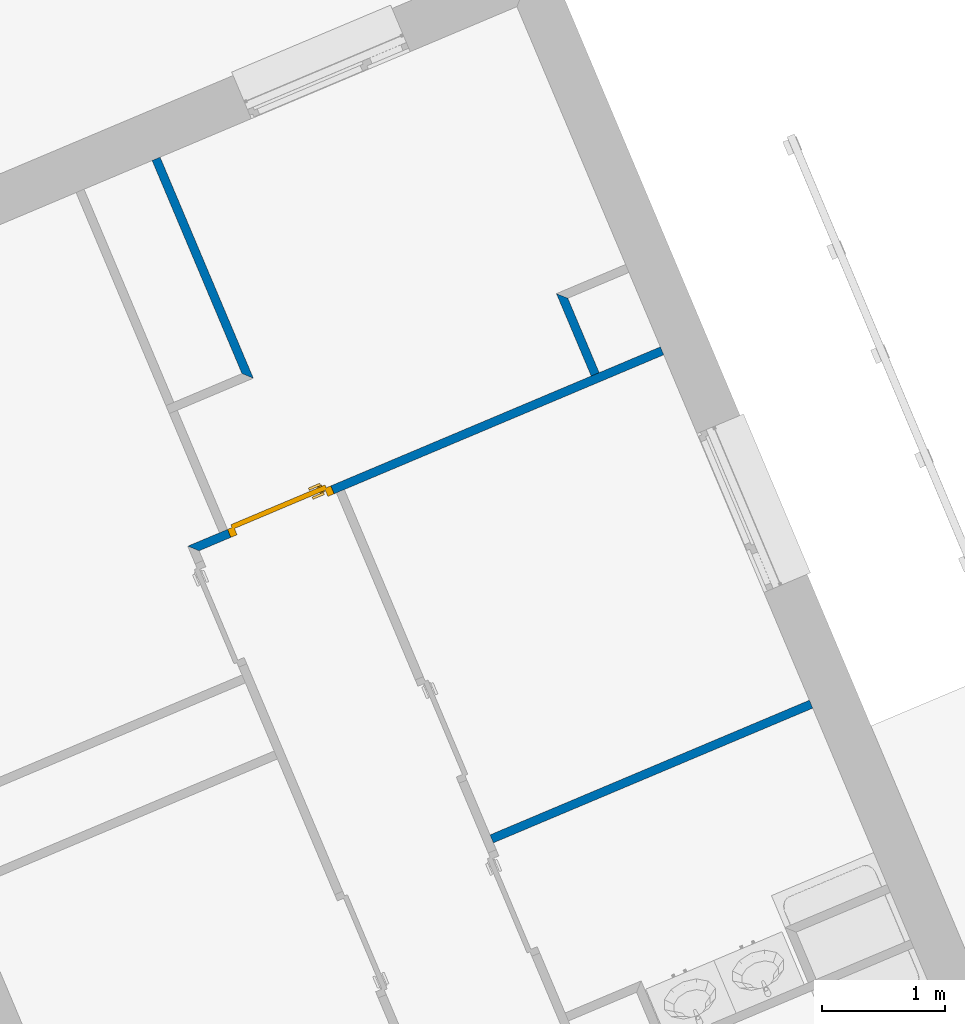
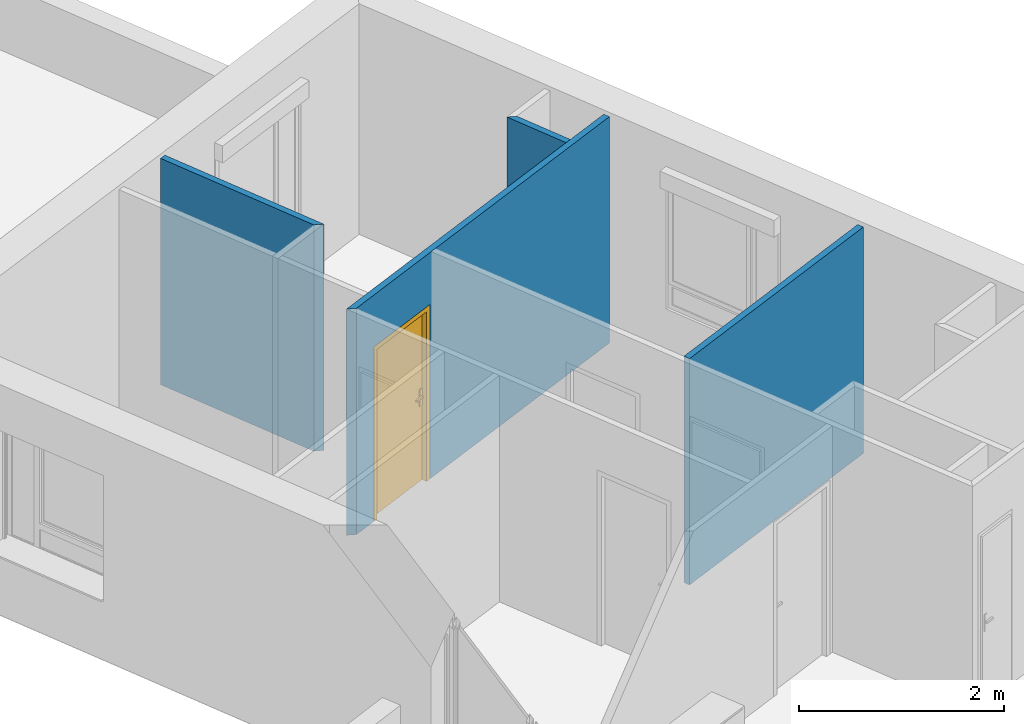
# One storey, part 47 of 121: 4 walls, 1 door, 1 opening.
"""IFC2X3 building model written with IfcOpenShell, lengths in metres."""

from ifc_helpers import new_model, entity, si_unit, converted_unit, derived_unit, money_unit, direction, frame, origin_with_axes, origin_2d_with_axis, place, context, subcontext, project, spatial, polyline, rectangle, outline, extrude, faceted_brep, source, transform, mapped, material, layer, layer_set, layer_usage, type_object, element, fill, save


model = new_model("IFC2X3")

# Units and contexts
model_context = context("Model", 3, precision=1e-05, world=origin_with_axes(), true_north=direction((0.0, 1.0)))
body_context = subcontext(model_context, "Body", "Model", "MODEL_VIEW")
ifc_project = project(units=[si_unit("LENGTHUNIT", "METRE"), si_unit("AREAUNIT", "SQUARE_METRE"), si_unit("VOLUMEUNIT", "CUBIC_METRE"), converted_unit("PLANEANGLEUNIT", "DEGREE", entity("IfcPlaneAngleMeasure", 0.0174532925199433), si_unit("PLANEANGLEUNIT", "RADIAN"), dimensions=[0, 0, 0, 0, 0, 0, 0]), money_unit("CHF"), converted_unit("TIMEUNIT", "Year", entity("IfcTimeMeasure", 31557600.0), si_unit("TIMEUNIT", "SECOND"), dimensions=[0, 0, 1, 0, 0, 0, 0]), si_unit("MASSUNIT", "GRAM", prefix="KILO"), si_unit("THERMODYNAMICTEMPERATUREUNIT", "DEGREE_CELSIUS"), si_unit("LUMINOUSINTENSITYUNIT", "LUMEN"), si_unit("ENERGYUNIT", "JOULE", prefix="MEGA"), derived_unit("THERMALCONDUCTANCEUNIT", [(si_unit("POWERUNIT", "WATT"), 1), (si_unit("LENGTHUNIT", "METRE"), -1), (si_unit("THERMODYNAMICTEMPERATUREUNIT", "KELVIN"), -1)]), derived_unit("SPECIFICHEATCAPACITYUNIT", [(si_unit("ENERGYUNIT", "JOULE"), 1), (si_unit("MASSUNIT", "GRAM", prefix="KILO"), -1), (si_unit("THERMODYNAMICTEMPERATUREUNIT", "KELVIN"), -1)]), derived_unit("MASSDENSITYUNIT", [(si_unit("MASSUNIT", "GRAM", prefix="KILO"), 1), (si_unit("VOLUMEUNIT", "CUBIC_METRE"), -1)])], contexts=[model_context])

# Site, building, storey
site_placement = place(None, origin_with_axes())
site = spatial("IfcSite", under=ifc_project, at=site_placement, Name="Site", CompositionType="ELEMENT")
building_placement = place(site_placement, origin_with_axes())
building = spatial("IfcBuilding", under=site, at=building_placement, Name="Bâtiment", CompositionType="ELEMENT")
storey_placement = place(building_placement, frame((0.0, 0.0, 2.75), z_axis=(0.0, 0.0, 1.0), x_axis=(1.0, 0.0, 0.0)))
storey = spatial("IfcBuildingStorey", under=building, at=storey_placement, Name="Etage 1", CompositionType="ELEMENT", Elevation=2.75)

# Wall, opening, door
ifc_material = material(Name="Hachure solide 268963992")
ifc_layer = layer(ifc_material, 0.07, ventilated="UNKNOWN")
ifc_layer_set = layer_set([ifc_layer], Name="Cloison 70 0826278243")
ifc_layer_usage_1 = layer_usage(ifc_layer_set, "AXIS2", "NEGATIVE", 0.0)
wall_type = type_object("IfcWallType", Name="Cloison 70 0826278243 70", PredefinedType="NOTDEFINED")
wall_1_placement = place(storey_placement, frame((9574.128594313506, -1051.305180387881, 57.7), z_axis=(0.0, 0.0, 1.0), x_axis=(-0.921420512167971, -0.3885669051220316, 0.0)))
wall_1 = element("IfcWallStandardCase", 1, at=wall_1_placement, inside=storey, type_object=wall_type, material=ifc_layer_usage_1, Name="Mur-149", context=body_context, shape_type="SweptSolid", body=[
    extrude(outline(polyline([(0.380000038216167, -0.06999999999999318), (4.543815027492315, -0.06999999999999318), (4.473815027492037, 0.0), (0.380000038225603, 0.0), (0.380000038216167, -0.06999999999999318)])), origin_with_axes(), (0.0, 0.0, 1.0), 2.7),
])
opening_placement = place(wall_1_placement, frame((3.738815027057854, 0.0, 0.0), z_axis=(0.0, 0.0, 1.0), x_axis=(1.0, 0.0, 0.0)))
opening = element("IfcOpeningElement", 2, at=opening_placement, cuts=wall_1, Name="Por-299", context=body_context, shape_type="SweptSolid", body=[
    extrude(rectangle(XDim=0.9099999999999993, YDim=2.079999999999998, at=origin_2d_with_axis()), frame((0.0, 0.06999999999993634, 1.039999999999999), z_axis=(0.0, 1.0, 0.0), x_axis=(1.0, 0.0, 0.0)), (0.0, 0.0, -1.0), 0.14),
])
door_style = type_object("IfcDoorStyle", Name="Porte_1v", ConstructionType="NOTDEFINED", OperationType="NOTDEFINED", ParameterTakesPrecedence=False, Sizeable=False)
shared_shape = source(origin_with_axes(), body_context, "Body", "Brep", [
    faceted_brep([(-0.455, 0.0, 0.0), (-0.455, 0.0, 2.08), (0.455, 0.0, 2.08), (0.455, 0.0, 0.0), (0.415, 0.0, 0.0), (0.415, 0.0, 2.04), (-0.415, 0.0, 2.04), (-0.415, 0.0, 0.0), (-0.455, -0.07, 0.0), (-0.455, -0.07, 2.08), (0.455, -0.07, 2.08), (0.455, -0.07, 0.0), (0.4, -0.07, 0.0), (0.4, -0.015, 0.0), (0.415, -0.015, 0.0), (0.415, -0.015, 2.04), (-0.415, -0.015, 2.04), (-0.415, -0.015, 0.0), (-0.4, -0.015, 0.0), (-0.4, -0.07, 0.0), (-0.4, -0.07, 2.025), (0.4, -0.07, 2.025), (0.4, -0.015, 2.025), (-0.4, -0.015, 2.025)], [[[0, 1, 2, 3, 4, 5, 6, 7]], [[8, 9, 1, 0]], [[9, 10, 2, 1]], [[10, 11, 3, 2]], [[3, 11, 12, 13, 14, 4]], [[5, 4, 14, 15]], [[6, 5, 15, 16]], [[7, 6, 16, 17]], [[0, 7, 17, 18, 19, 8]], [[19, 20, 21, 12, 11, 10, 9, 8]], [[22, 13, 12, 21]], [[17, 16, 15, 14, 13, 22, 23, 18]], [[18, 23, 20, 19]], [[23, 22, 21, 20]]]),
    faceted_brep([(0.35, -0.015, 0.9), (0.35, -0.015, 1.1), (0.39, -0.015, 1.1), (0.39, -0.015, 0.9), (0.35, -0.025, 0.9), (0.35, -0.025, 1.1), (0.39, -0.025, 1.1), (0.39, -0.025, 0.9)], [[[0, 1, 2, 3]], [[0, 4, 5, 1]], [[1, 5, 6, 2]], [[2, 6, 7, 3]], [[3, 7, 4, 0]], [[7, 6, 5, 4]]]),
    faceted_brep([(0.28, -0.025, 1.0), (0.28, -0.025, 1.02), (0.38, -0.025, 1.02), (0.38, -0.025, 1.0), (0.28, -0.045, 1.0), (0.28, -0.045, 1.02), (0.38, -0.045, 1.02), (0.38, -0.045, 1.0)], [[[0, 1, 2, 3]], [[0, 4, 5, 1]], [[1, 5, 6, 2]], [[2, 6, 7, 3]], [[3, 7, 4, 0]], [[7, 6, 5, 4]]]),
    faceted_brep([(0.35, 0.035, 0.9), (0.35, 0.035, 1.1), (0.39, 0.035, 1.1), (0.39, 0.035, 0.9), (0.35, 0.025, 0.9), (0.35, 0.025, 1.1), (0.39, 0.025, 1.1), (0.39, 0.025, 0.9)], [[[0, 1, 2, 3]], [[0, 4, 5, 1]], [[1, 5, 6, 2]], [[2, 6, 7, 3]], [[3, 7, 4, 0]], [[7, 6, 5, 4]]]),
    faceted_brep([(0.28, 0.05500000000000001, 1.0), (0.28, 0.05500000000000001, 1.02), (0.38, 0.05500000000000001, 1.02), (0.38, 0.05500000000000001, 1.0), (0.28, 0.035, 1.0), (0.28, 0.035, 1.02), (0.38, 0.035, 1.02), (0.38, 0.035, 1.0)], [[[0, 1, 2, 3]], [[0, 4, 5, 1]], [[1, 5, 6, 2]], [[2, 6, 7, 3]], [[3, 7, 4, 0]], [[7, 6, 5, 4]]]),
    faceted_brep([(0.415, 0.025, 0.0), (0.415, -0.015, 0.0), (-0.415, -0.015, 0.0), (-0.415, 0.025, 0.0), (0.415, 0.025, 2.04), (0.415, -0.015, 2.04), (-0.415, -0.015, 2.04), (-0.415, 0.025, 2.04)], [[[0, 1, 2, 3]], [[4, 5, 1, 0]], [[1, 5, 6, 2]], [[3, 2, 6, 7]], [[0, 3, 7, 4]], [[7, 6, 5, 4]]]),
])
door_placement = place(opening_placement, frame((0.4150000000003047, 0.0, 0.0), z_axis=(0.0, 0.0, 1.0), x_axis=(-1.0, 0.0, 0.0)))
door = element("IfcDoor", 3, at=door_placement, inside=storey, type_object=door_style, Name="Por-299", OverallHeight=2.04, OverallWidth=0.83, context=body_context, shape_type="MappedRepresentation", body=[
    mapped(shared_shape, transform((0.4150000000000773, 0.06999999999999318, 0.0))),
])
fill(opening, door)

# Walls
ifc_layer_usage_2 = layer_usage(ifc_layer_set, "AXIS2", "NEGATIVE", 0.0)
wall_2_placement = place(storey_placement, frame((9575.338157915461, -1054.173455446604, 57.7), z_axis=(0.0, 0.0, 1.0), x_axis=(-0.9214205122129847, -0.3885669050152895, 0.0)))
element("IfcWallStandardCase", 4, at=wall_2_placement, inside=storey, type_object=wall_type, material=ifc_layer_usage_2, Name="Mur-149", context=body_context, shape_type="SweptSolid", body=[
    extrude(outline(polyline([(0.3799999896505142, -0.06999999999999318), (3.193814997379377, -0.07000000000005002), (3.193814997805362, 0.0), (0.3799999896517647, 0.0), (0.3799999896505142, -0.06999999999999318)])), origin_with_axes(), (0.0, 0.0, 1.0), 2.7),
])
ifc_layer_usage_3 = layer_usage(ifc_layer_set, "AXIS2", "NEGATIVE", 0.0)
wall_3_placement = place(storey_placement, frame((9569.542187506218, -1049.498041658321, 57.7), z_axis=(0.0, 0.0, 1.0), x_axis=(0.3885668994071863, -0.9214205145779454, 0.0)))
element("IfcWallStandardCase", 5, at=wall_3_placement, inside=storey, type_object=wall_type, material=ifc_layer_usage_3, Name="Mur-149", context=body_context, shape_type="SweptSolid", body=[
    extrude(outline(polyline([(0.3800000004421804, -0.06999999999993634), (2.257413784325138, -0.06999999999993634), (2.327413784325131, 0.0), (0.3800000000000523, 0.0), (0.3800000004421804, -0.06999999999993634)])), origin_with_axes(), (0.0, 0.0, 1.0), 2.7),
])
ifc_layer_usage_4 = layer_usage(ifc_layer_set, "AXIS2", "POSITIVE", 0.0)
wall_4_placement = place(storey_placement, frame((9573.281462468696, -1051.662419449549, 57.7), z_axis=(0.0, 0.0, 1.0), x_axis=(-0.3885669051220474, 0.9214205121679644, 0.0)))
element("IfcWallStandardCase", 6, at=wall_4_placement, inside=storey, type_object=wall_type, material=ifc_layer_usage_4, Name="Mur-149", context=body_context, shape_type="SweptSolid", body=[
    extrude(outline(polyline([(0.07000000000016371, 0.0), (0.725985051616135, 0.0), (0.7959850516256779, 0.06999999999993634), (0.07000000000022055, 0.07000000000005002), (0.07000000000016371, 0.0)])), origin_with_axes(), (0.0, 0.0, 1.0), 2.7),
])

save(model, "model.ifc")
